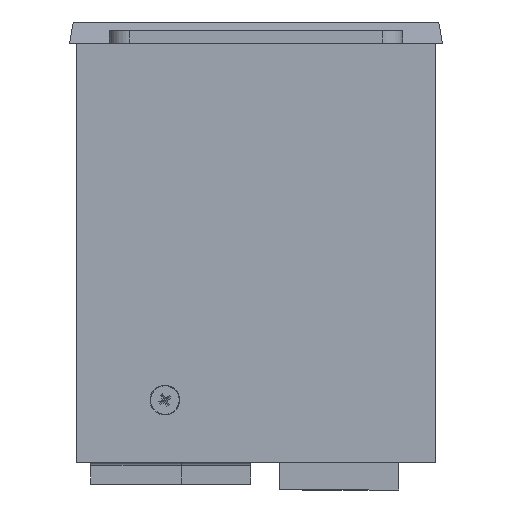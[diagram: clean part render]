
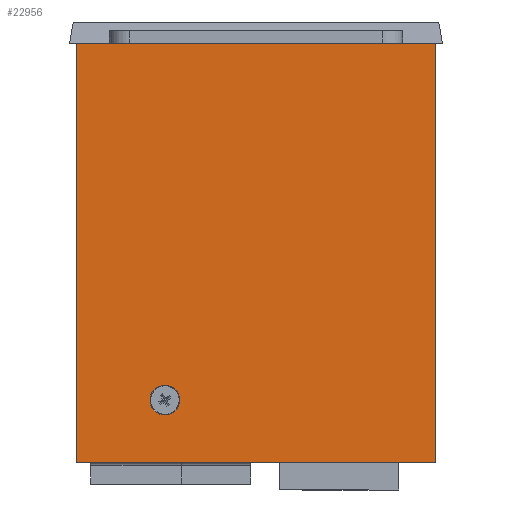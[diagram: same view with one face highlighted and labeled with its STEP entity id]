
A CAD part, front view. The second image highlights one B-rep face of the part: STEP entity #22956.
In plain terms, the highlighted planar face has unit normal (0, -1, 0).
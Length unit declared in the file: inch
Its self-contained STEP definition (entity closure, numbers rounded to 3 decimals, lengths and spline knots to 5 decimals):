
#1330 = EDGE_CURVE ( 'NONE', #75837, #119433, #157661, .T. ) ;
#1336 = EDGE_CURVE ( 'NONE', #76018, #119448, #157670, .T. ) ;
#1338 = EDGE_CURVE ( 'NONE', #76018, #75837, #157551, .T. ) ;
#1340 = EDGE_CURVE ( 'NONE', #119323, #119326, #157685, .T. ) ;
#3036 = AXIS2_PLACEMENT_3D ( 'NONE', #144766, #144761, #144740 ) ;
#3228 = CARTESIAN_POINT ( 'NONE',  ( -2.4415, -0.885, -3.7855 ) ) ;
#3484 = CARTESIAN_POINT ( 'NONE',  ( 0.9285, -0.885, -3.7855 ) ) ;
#4903 = CARTESIAN_POINT ( 'NONE',  ( -1.6115, -0.885, -3.337 ) ) ;
#4913 = CARTESIAN_POINT ( 'NONE',  ( -1.6115, -0.885, -3.058 ) ) ;
#5246 = CARTESIAN_POINT ( 'NONE',  ( -2.4415, -0.885, 0.1495 ) ) ;
#5292 = CARTESIAN_POINT ( 'NONE',  ( 0.9285, -0.885, 0.1495 ) ) ;
#14463 = AXIS2_PLACEMENT_3D ( 'NONE', #105452, #105454, #105456 ) ;
#22956 = ADVANCED_FACE ( 'NONE', ( #139191, #139200 ), #105435, .F. ) ;
#75837 = VERTEX_POINT ( 'NONE', #3228 ) ;
#76018 = VERTEX_POINT ( 'NONE', #3484 ) ;
#77668 = CARTESIAN_POINT ( 'NONE',  ( -1.6115, -0.885, -3.1975 ) ) ;
#77670 = DIRECTION ( 'NONE',  ( 0., -1., 0. ) ) ;
#77672 = DIRECTION ( 'NONE',  ( 0., 0., -1. ) ) ;
#77784 = CARTESIAN_POINT ( 'NONE',  ( 0.9285, -0.885, 0.1495 ) ) ;
#77798 = DIRECTION ( 'NONE',  ( -1., 0., 0. ) ) ;
#78555 = CIRCLE ( 'NONE', #126061, 0.1395 ) ;
#78619 = LINE ( 'NONE', #77784, #78657 ) ;
#78657 = VECTOR ( 'NONE', #77798, 39.37008 ) ;
#105435 = PLANE ( 'NONE',  #14463 ) ;
#105452 = CARTESIAN_POINT ( 'NONE',  ( 0.9285, -0.885, -3.7855 ) ) ;
#105454 = DIRECTION ( 'NONE',  ( 0., 1., 0. ) ) ;
#105456 = DIRECTION ( 'NONE',  ( -1., 0., 0. ) ) ;
#109912 = EDGE_LOOP ( 'NONE', ( #148596, #148598, #148599, #148602 ) ) ;
#109920 = EDGE_LOOP ( 'NONE', ( #148593, #148594 ) ) ;
#119323 = VERTEX_POINT ( 'NONE', #4903 ) ;
#119326 = VERTEX_POINT ( 'NONE', #4913 ) ;
#119433 = VERTEX_POINT ( 'NONE', #5246 ) ;
#119448 = VERTEX_POINT ( 'NONE', #5292 ) ;
#126061 = AXIS2_PLACEMENT_3D ( 'NONE', #77668, #77670, #77672 ) ;
#139191 = FACE_BOUND ( 'NONE', #109920, .T. ) ;
#139200 = FACE_OUTER_BOUND ( 'NONE', #109912, .T. ) ;
#140672 = EDGE_CURVE ( 'NONE', #119326, #119323, #78555, .T. ) ;
#140705 = EDGE_CURVE ( 'NONE', #119448, #119433, #78619, .T. ) ;
#144740 = DIRECTION ( 'NONE',  ( 0., 0., -1. ) ) ;
#144761 = DIRECTION ( 'NONE',  ( 0., -1., 0. ) ) ;
#144766 = CARTESIAN_POINT ( 'NONE',  ( -1.6115, -0.885, -3.1975 ) ) ;
#144808 = DIRECTION ( 'NONE',  ( -1., 0., 0. ) ) ;
#144815 = DIRECTION ( 'NONE',  ( 0., 0., 1. ) ) ;
#144829 = CARTESIAN_POINT ( 'NONE',  ( 0.9285, -0.885, -3.7855 ) ) ;
#144880 = CARTESIAN_POINT ( 'NONE',  ( 0.9285, -0.885, -3.7855 ) ) ;
#144918 = DIRECTION ( 'NONE',  ( 0., 0., 1. ) ) ;
#144926 = CARTESIAN_POINT ( 'NONE',  ( -2.4415, -0.885, -3.7855 ) ) ;
#148593 = ORIENTED_EDGE ( 'NONE', *, *, #1340, .F. ) ;
#148594 = ORIENTED_EDGE ( 'NONE', *, *, #140672, .F. ) ;
#148596 = ORIENTED_EDGE ( 'NONE', *, *, #140705, .T. ) ;
#148598 = ORIENTED_EDGE ( 'NONE', *, *, #1330, .F. ) ;
#148599 = ORIENTED_EDGE ( 'NONE', *, *, #1338, .F. ) ;
#148602 = ORIENTED_EDGE ( 'NONE', *, *, #1336, .T. ) ;
#157551 = LINE ( 'NONE', #144880, #157689 ) ;
#157661 = LINE ( 'NONE', #144926, #157667 ) ;
#157667 = VECTOR ( 'NONE', #144918, 39.37008 ) ;
#157670 = LINE ( 'NONE', #144829, #157681 ) ;
#157681 = VECTOR ( 'NONE', #144815, 39.37008 ) ;
#157685 = CIRCLE ( 'NONE', #3036, 0.1395 ) ;
#157689 = VECTOR ( 'NONE', #144808, 39.37008 ) ;
